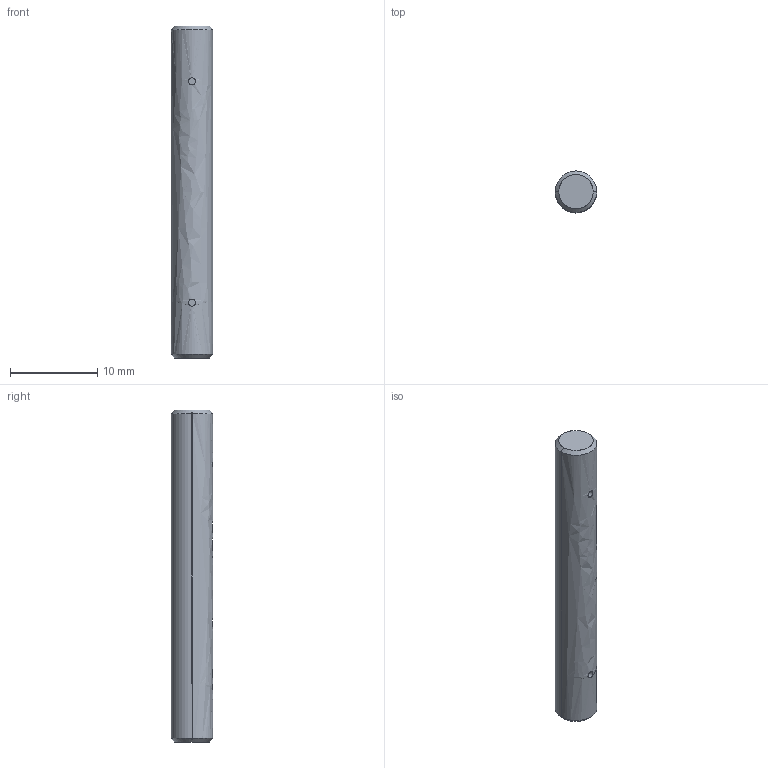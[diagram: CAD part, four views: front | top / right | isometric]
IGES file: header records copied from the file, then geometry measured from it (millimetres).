
Start section: SolidWorks IGES file using analytic representation for surfaces
Global section: file name: D:\Solid_parts\MECHeDESIGN\Bal-Tec\Catalog 105-A\Distribution\IGES\187-CBH.IGS; native system: SolidWorks 2005 by SolidWorks Corporation; preprocessor: SolidWorks 2005 by SolidWorks Corporation; author: rvillegas; date: 061204.225451; units: inch
Bounding box: 4.76 x 4.76 x 38.1 mm (x, y, z)
Surface area: 609.9 mm2 (no closed solid volume)
Topology: 0 solids, 0 shells, 14 faces, 196 edges, 196 vertices
Faces by surface type: revolution 10, bspline 4
